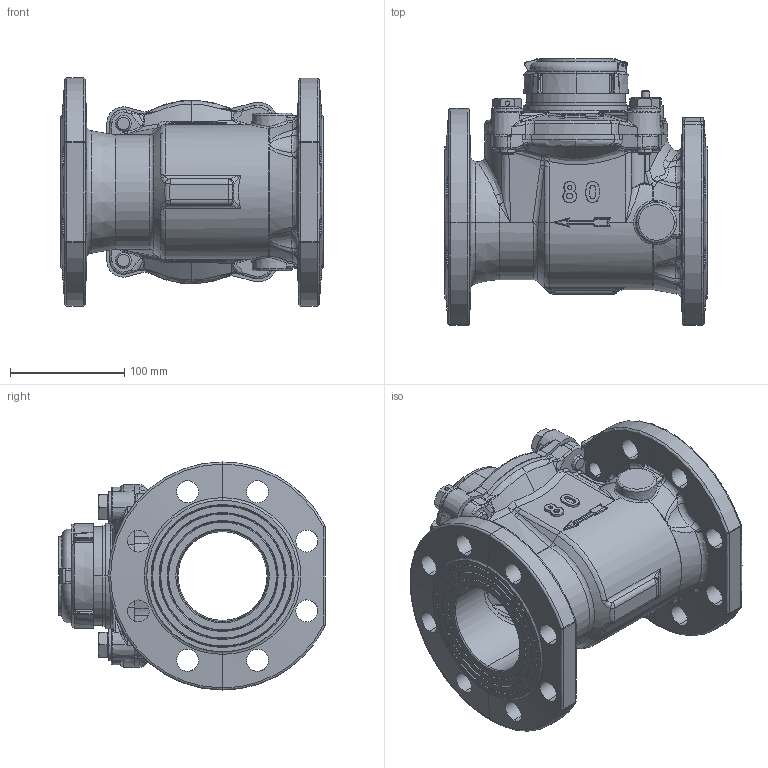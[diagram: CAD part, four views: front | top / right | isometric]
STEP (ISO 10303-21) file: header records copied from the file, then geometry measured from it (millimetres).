
FILE_DESCRIPTION (( 'STEP AP203' ), '1' );
FILE_NAME ('13331009-00,WTII 3 ISO m3 EEC.STEP', '2011-05-16T06:20:36', ( 'àøã-ãìéä áò"î' ), ( '' ), 'SwSTEP 2.0', 'SolidWorks 2011', '' );
FILE_SCHEMA (( 'CONFIG_CONTROL_DESIGN' ));
Length unit declared in the file: millimetre
Products named in the file (11): 13331009-00,WTII 3 ISO m3 EEC; FLAT WASHERS DIN 125 A (ISO 7089)(M14 ( 2 30 266 09 ))-2; 21082110-02,Hex cap screw M14x35 drilled(21082120)-2; Hex cap screws MxL DIN 933(M14x40(21082119 -00))-2; 25222255-11,Cover WT_WST 2''''-4''''(2 52 222 09 -11)-2; 21082009-21,Regulator cap screw WT-2; 32230055-20,Body WT 3''''(3 22 301 09 -20); a,25820329-04,Register cover 19 with plastic lid ARAD-2; p,26710709-07,Lid pin-1; p,27630309-05,Plastic lid ARAD(hor)-1-2; 25820309-18,Register cover 19-1-2
Assembly tree (14 placements, depth 3):
  13331009-00,WTII 3 ISO m3 EEC
    21082110-02,Hex cap screw M14x35 drilled(21082120)-2
    Hex cap screws MxL DIN 933(M14x40(21082119 -00))-2  x3
    25222255-11,Cover WT_WST 2''''-4''''(2 52 222 09 -11)-2
    32230055-20,Body WT 3''''(3 22 301 09 -20)
    21082009-21,Regulator cap screw WT-2
    a,25820329-04,Register cover 19 with plastic lid ARAD-2
      25820309-18,Register cover 19-1-2
      p,26710709-07,Lid pin-1
      p,27630309-05,Plastic lid ARAD(hor)-1-2
    FLAT WASHERS DIN 125 A (ISO 7089)(M14 ( 2 30 266 09 ))-2  x3
Bounding box: 230 x 233.6 x 200 mm (x, y, z)
Volume: 2182859.6 mm3; surface area: 419929.5 mm2
Topology: 13 solids, 13 shells, 1837 faces, 4408 edges, 2565 vertices
Faces by surface type: bspline 606, plane 492, cylinder 381, cone 208, torus 120, sphere 30
Entity records: 83851 total; most frequent: CARTESIAN_POINT 47135, ORIENTED_EDGE 8376, DIRECTION 6001, EDGE_CURVE 4188, VERTEX_POINT 2485, AXIS2_PLACEMENT_3D 2445, EDGE_LOOP 1905, FACE_OUTER_BOUND 1771
